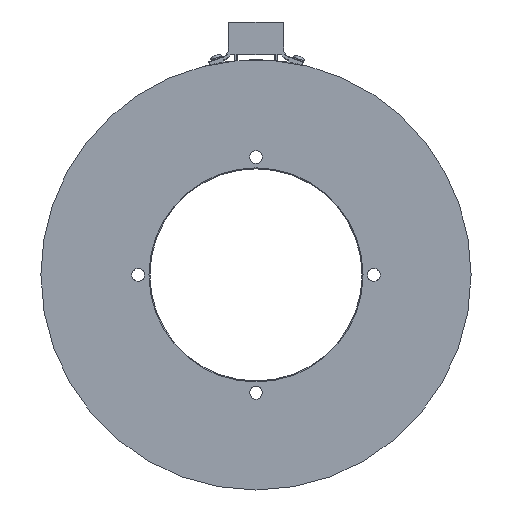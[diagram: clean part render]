
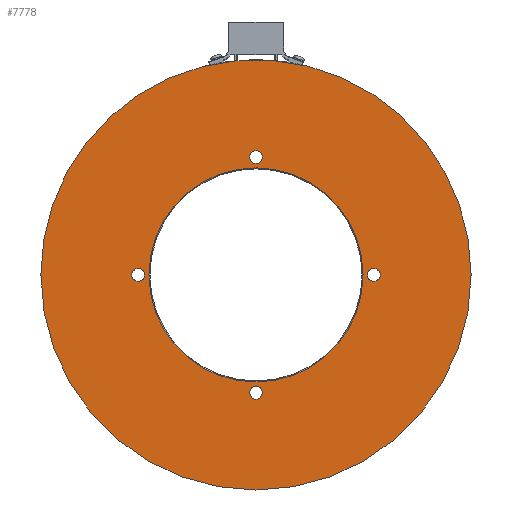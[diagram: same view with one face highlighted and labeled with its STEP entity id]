
A CAD part, left-side view. The second image highlights one B-rep face of the part: STEP entity #7778.
In plain terms, the highlighted planar face has unit normal (-1, 0, 0).
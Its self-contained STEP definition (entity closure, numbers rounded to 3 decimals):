
#99=PLANE('',#8435);
#208=FACE_BOUND('',#812,.T.);
#209=FACE_BOUND('',#813,.T.);
#210=FACE_BOUND('',#814,.T.);
#211=FACE_BOUND('',#815,.T.);
#212=FACE_BOUND('',#816,.T.);
#390=FACE_OUTER_BOUND('',#811,.T.);
#811=EDGE_LOOP('',(#5206,#5207,#5208));
#812=EDGE_LOOP('',(#5209,#5210));
#813=EDGE_LOOP('',(#5211,#5212));
#814=EDGE_LOOP('',(#5213,#5214));
#815=EDGE_LOOP('',(#5215,#5216));
#816=EDGE_LOOP('',(#5217));
#1221=CIRCLE('',#8144,109.5);
#1222=CIRCLE('',#8145,109.5);
#1430=CIRCLE('',#8406,54.5);
#1434=CIRCLE('',#8415,3.25);
#1435=CIRCLE('',#8416,3.25);
#1436=CIRCLE('',#8418,3.25);
#1437=CIRCLE('',#8419,3.25);
#1438=CIRCLE('',#8421,3.25);
#1439=CIRCLE('',#8422,3.25);
#1440=CIRCLE('',#8424,3.25);
#1441=CIRCLE('',#8425,3.25);
#1449=CIRCLE('',#8436,109.5);
#2761=VERTEX_POINT('',#12035);
#2766=VERTEX_POINT('',#12045);
#2767=VERTEX_POINT('',#12047);
#2993=VERTEX_POINT('',#12708);
#2997=VERTEX_POINT('',#12804);
#2998=VERTEX_POINT('',#12805);
#2999=VERTEX_POINT('',#12810);
#3000=VERTEX_POINT('',#12811);
#3001=VERTEX_POINT('',#12816);
#3002=VERTEX_POINT('',#12817);
#3003=VERTEX_POINT('',#12822);
#3004=VERTEX_POINT('',#12823);
#3525=EDGE_CURVE('',#2767,#2766,#1221,.T.);
#3526=EDGE_CURVE('',#2761,#2767,#1222,.T.);
#3806=EDGE_CURVE('',#2993,#2993,#1430,.T.);
#3816=EDGE_CURVE('',#2997,#2998,#1434,.T.);
#3817=EDGE_CURVE('',#2998,#2997,#1435,.T.);
#3819=EDGE_CURVE('',#2999,#3000,#1436,.T.);
#3820=EDGE_CURVE('',#3000,#2999,#1437,.T.);
#3822=EDGE_CURVE('',#3001,#3002,#1438,.T.);
#3823=EDGE_CURVE('',#3002,#3001,#1439,.T.);
#3825=EDGE_CURVE('',#3003,#3004,#1440,.T.);
#3826=EDGE_CURVE('',#3004,#3003,#1441,.T.);
#3837=EDGE_CURVE('',#2766,#2761,#1449,.T.);
#5206=ORIENTED_EDGE('',*,*,#3525,.T.);
#5207=ORIENTED_EDGE('',*,*,#3837,.T.);
#5208=ORIENTED_EDGE('',*,*,#3526,.T.);
#5209=ORIENTED_EDGE('',*,*,#3825,.T.);
#5210=ORIENTED_EDGE('',*,*,#3826,.T.);
#5211=ORIENTED_EDGE('',*,*,#3822,.T.);
#5212=ORIENTED_EDGE('',*,*,#3823,.T.);
#5213=ORIENTED_EDGE('',*,*,#3819,.T.);
#5214=ORIENTED_EDGE('',*,*,#3820,.T.);
#5215=ORIENTED_EDGE('',*,*,#3816,.T.);
#5216=ORIENTED_EDGE('',*,*,#3817,.T.);
#5217=ORIENTED_EDGE('',*,*,#3806,.F.);
#7778=ADVANCED_FACE('',(#390,#208,#209,#210,#211,#212),#99,.T.);
#8144=AXIS2_PLACEMENT_3D('',#12048,#9319,#9320);
#8145=AXIS2_PLACEMENT_3D('',#12049,#9321,#9322);
#8406=AXIS2_PLACEMENT_3D('',#12710,#9903,#9904);
#8415=AXIS2_PLACEMENT_3D('',#12806,#9922,#9923);
#8416=AXIS2_PLACEMENT_3D('',#12807,#9924,#9925);
#8418=AXIS2_PLACEMENT_3D('',#12812,#9929,#9930);
#8419=AXIS2_PLACEMENT_3D('',#12813,#9931,#9932);
#8421=AXIS2_PLACEMENT_3D('',#12818,#9936,#9937);
#8422=AXIS2_PLACEMENT_3D('',#12819,#9938,#9939);
#8424=AXIS2_PLACEMENT_3D('',#12824,#9943,#9944);
#8425=AXIS2_PLACEMENT_3D('',#12825,#9945,#9946);
#8435=AXIS2_PLACEMENT_3D('',#12844,#9968,#9969);
#8436=AXIS2_PLACEMENT_3D('',#12845,#9970,#9971);
#9319=DIRECTION('center_axis',(-1.,0.,0.));
#9320=DIRECTION('ref_axis',(0.,1.,0.));
#9321=DIRECTION('center_axis',(-1.,0.,0.));
#9322=DIRECTION('ref_axis',(0.,1.,0.));
#9903=DIRECTION('center_axis',(-1.,0.,0.));
#9904=DIRECTION('ref_axis',(0.,-1.,0.));
#9922=DIRECTION('center_axis',(1.,0.,0.));
#9923=DIRECTION('ref_axis',(0.,0.,
1.));
#9924=DIRECTION('center_axis',(1.,0.,0.));
#9925=DIRECTION('ref_axis',(0.,0.,
1.));
#9929=DIRECTION('center_axis',(1.,0.,0.));
#9930=DIRECTION('ref_axis',(0.,0.,
1.));
#9931=DIRECTION('center_axis',(1.,0.,0.));
#9932=DIRECTION('ref_axis',(0.,0.,
1.));
#9936=DIRECTION('center_axis',(1.,0.,0.));
#9937=DIRECTION('ref_axis',(0.,0.,
1.));
#9938=DIRECTION('center_axis',(1.,0.,0.));
#9939=DIRECTION('ref_axis',(0.,0.,
1.));
#9943=DIRECTION('center_axis',(1.,0.,0.));
#9944=DIRECTION('ref_axis',(0.,0.,
1.));
#9945=DIRECTION('center_axis',(1.,0.,0.));
#9946=DIRECTION('ref_axis',(0.,0.,
1.));
#9968=DIRECTION('center_axis',(-1.,0.,0.));
#9969=DIRECTION('ref_axis',(0.,0.,
1.));
#9970=DIRECTION('center_axis',(-1.,0.,0.));
#9971=DIRECTION('ref_axis',(0.,1.,0.));
#12035=CARTESIAN_POINT('',(-18.,9.682,109.071));
#12045=CARTESIAN_POINT('',(-18.,-109.5,0.));
#12047=CARTESIAN_POINT('',(-18.,109.5,0.));
#12048=CARTESIAN_POINT('Origin',(-18.,0.,0.));
#12049=CARTESIAN_POINT('Origin',(-18.,0.,0.));
#12708=CARTESIAN_POINT('',(-18.,54.5,0.));
#12710=CARTESIAN_POINT('Origin',(-18.,0.,0.));
#12804=CARTESIAN_POINT('',(-18.,-60.,3.25));
#12805=CARTESIAN_POINT('',(-18.,-60.,-3.25));
#12806=CARTESIAN_POINT('Origin',(-18.,-60.,0.));
#12807=CARTESIAN_POINT('Origin',(-18.,-60.,0.));
#12810=CARTESIAN_POINT('',(-18.,60.,3.25));
#12811=CARTESIAN_POINT('',(-18.,60.,-3.25));
#12812=CARTESIAN_POINT('Origin',(-18.,60.,0.));
#12813=CARTESIAN_POINT('Origin',(-18.,60.,0.));
#12816=CARTESIAN_POINT('',(-18.,0.,63.25));
#12817=CARTESIAN_POINT('',(-18.,0.,56.75));
#12818=CARTESIAN_POINT('Origin',(-18.,0.,60.));
#12819=CARTESIAN_POINT('Origin',(-18.,0.,60.));
#12822=CARTESIAN_POINT('',(-18.,0.,-56.75));
#12823=CARTESIAN_POINT('',(-18.,0.,-63.25));
#12824=CARTESIAN_POINT('Origin',(-18.,0.,-60.));
#12825=CARTESIAN_POINT('Origin',(-18.,0.,-60.));
#12844=CARTESIAN_POINT('Origin',(-18.,81.75,0.));
#12845=CARTESIAN_POINT('Origin',(-18.,0.,0.));
